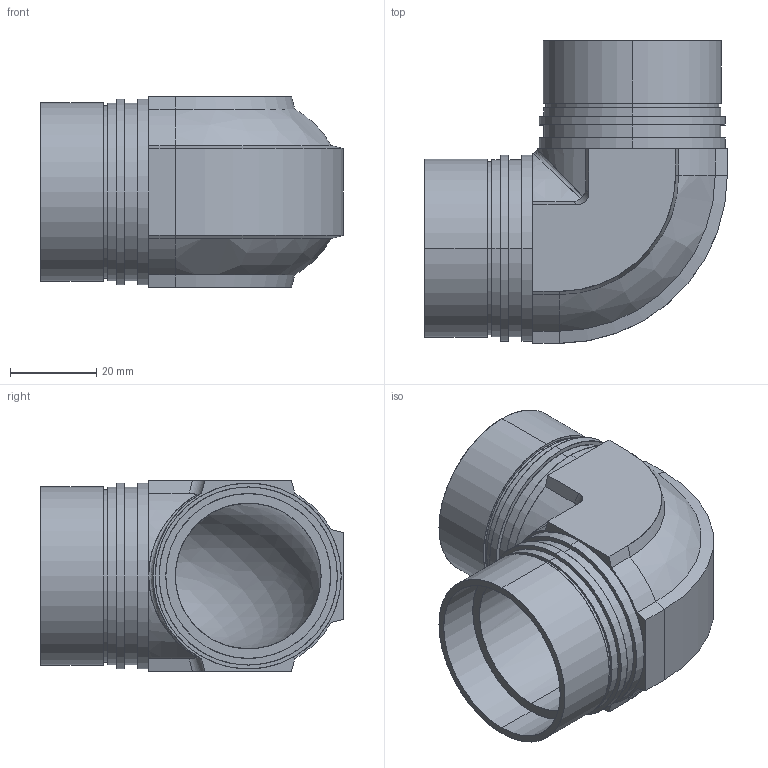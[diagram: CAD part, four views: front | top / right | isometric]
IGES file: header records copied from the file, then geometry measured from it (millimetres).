
Start section: SolidWorks IGES file using analytic representation for surfaces
Global section: file name: C:\Users\tsuchida.FW\Desktop\70-381UE-P.IGS; native system: SolidWorks 2012; preprocessor: SolidWorks 2012; author: tsuchida; date: 121029.134514; units: millimetre
Bounding box: 70 x 70 x 44 mm (x, y, z)
Surface area: 27479 mm2 (no closed solid volume)
Topology: 0 solids, 0 shells, 86 faces, 2598 edges, 2598 vertices
Faces by surface type: revolution 49, bspline 37
